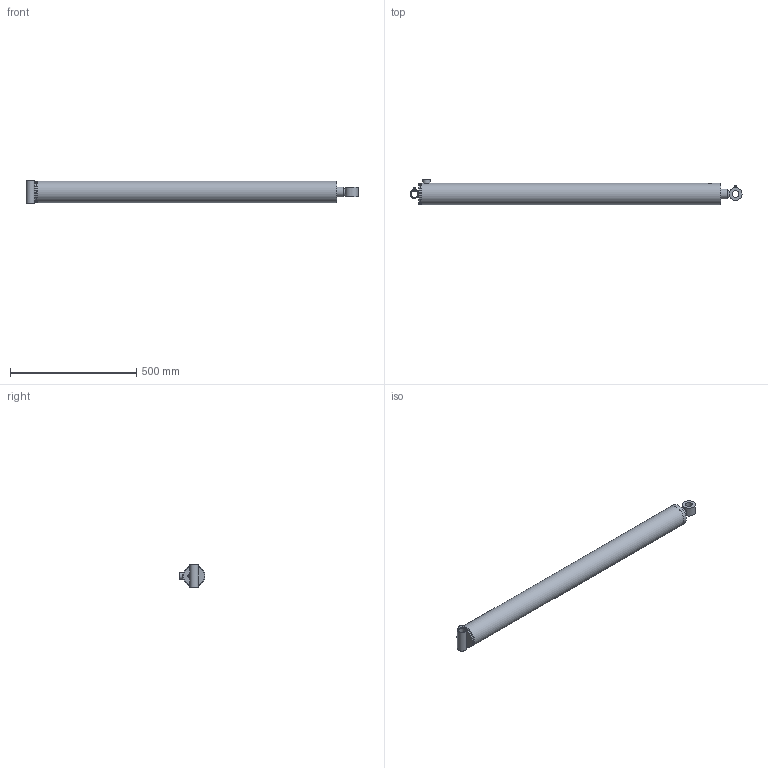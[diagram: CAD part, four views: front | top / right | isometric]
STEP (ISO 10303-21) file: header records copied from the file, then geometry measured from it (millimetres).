
FILE_DESCRIPTION((''),'2;1');
FILE_NAME('C:\Vault\Workspace\Vest\PMC-8342.stp','2012-07-27T13:05:32',('KleberT'),(''),'Autodesk Inventor 2012','Autodesk Inventor 2012','');
FILE_SCHEMA(('AUTOMOTIVE_DESIGN { 1 0 10303 214 1 1 1 1 }'));
Length unit declared in the file: inch
Products named in the file (22): PMC-8342; 061500056; 051500074; 161500007V; 210400412V; 200014403V; 081500401V; 020800293; 010800824; 210400528V; 071500021V; 250001222V; 240020059V; 240061334V; 240000334V; 230001300V; 240000022V; 240004006V; 240034334V; 200018003V; 270010002V; 220000210
Assembly tree (25 placements, depth 3):
  PMC-8342
    061500056
      051500074
      161500007V
      210400412V
      200014403V
    081500401V
    020800293
      010800824
      210400528V
    071500021V
    250001222V
    240020059V
    240061334V
    240000334V  x2
    230001300V
    240000022V
    240004006V
    240034334V  x2
    200018003V  x2
    270010002V  x2
    220000210
Bounding box: 1312.85 x 101.6 x 88.9 mm (x, y, z)
Volume: 3244222.6 mm3; surface area: 893137.4 mm2
Topology: 23 solids, 23 shells, 243 faces, 499 edges, 304 vertices
Faces by surface type: plane 115, cylinder 65, cone 36, torus 21, bspline 4, sphere 2
Full cylindrical faces by diameter (mm): 1.524 x2, 2.794 x2, 5.486 x1, 8.839 x1, 9.08 x2, 12.7 x1, 17.463 x1, 17.475 x1, 23.444 x1, 23.813 x1, 25.349 x1, 25.476 x1, 25.908 x1, 26.162 x1, 27.94 x1, 28.575 x1, 34.925 x1, 38.1 x2, 38.176 x2, 39.052 x1, 41.91 x1, 46.025 x2, 46.673 x1, 47.625 x1, 49.2 x1, 50.8 x1, 55.55 x1, 59.69 x1, 66.802 x1, 67.31 x3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
Entity records: 5987 total; most frequent: CARTESIAN_POINT 1444, DIRECTION 917, ORIENTED_EDGE 588, AXIS2_PLACEMENT_3D 418, EDGE_LOOP 351, EDGE_CURVE 294, VERTEX_POINT 235, FACE_OUTER_BOUND 203
